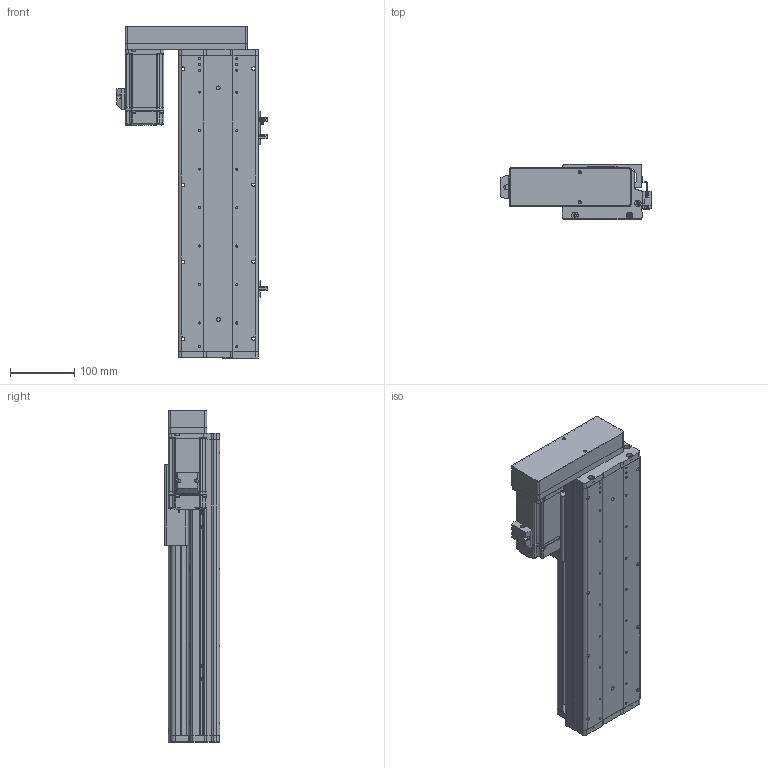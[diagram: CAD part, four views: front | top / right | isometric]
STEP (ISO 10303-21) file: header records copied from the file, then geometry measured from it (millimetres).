
FILE_DESCRIPTION (( 'STEP AP214' ), '1' );
FILE_NAME ('KSD125S-S250-ML-CM.STEP', '2017-10-21T08:28:33', ( '微软用户' ), ( '微软中国' ), 'SwSTEP 2.0', 'SolidWorks 2014', '' );
FILE_SCHEMA (( 'AUTOMOTIVE_DESIGN' ));
Length unit declared in the file: millimetre
Products named in the file (16): KSD125-賑雄釱1; 125-帣傷啣1; KSD125S-S250-ML-CM; 覜茼え68遵圉猾敕; U倰嫖萇EEㄜSX672; HTPA30S3M150_A_H6_a佪裝蚚; HTPA30S3M150_A_H6_a萇儂蚚; 125宽马达安装板连板左右折丝杆; 125悵誘欶酘衵殏; KSD125S-250俴最佪裝滅鳥裔; KSD125S-250俴最佪裝菁啣; MHMD042G1CA_2_03; 拸萇儂釱滅袉菜; 拸萇儂釱滅袉菜-1; U倰嫖萇假蚾璃; ヶ傷啣-125遵耀郪
Assembly tree (19 placements, depth 2):
  KSD125S-S250-ML-CM
    125-帣傷啣1
    KSD125-賑雄釱1
    ヶ傷啣-125遵耀郪
    U倰嫖萇假蚾璃  x3
    拸萇儂釱滅袉菜-1
    拸萇儂釱滅袉菜
    MHMD042G1CA_2_03
    KSD125S-250俴最佪裝菁啣
    KSD125S-250俴最佪裝滅鳥裔
    125悵誘欶酘衵殏
    125宽马达安装板连板左右折丝杆
    HTPA30S3M150_A_H6_a萇儂蚚
    HTPA30S3M150_A_H6_a佪裝蚚
    U倰嫖萇EEㄜSX672  x3
    覜茼え68遵圉猾敕
Bounding box: 234.2 x 86 x 517.5 mm (x, y, z)
Volume: 1976430.2 mm3; surface area: 704863.8 mm2
Topology: 18 solids, 21 shells, 2147 faces, 6219 edges, 4101 vertices
Faces by surface type: cylinder 1330, plane 676, cone 119, bspline 22
Entity records: 75353 total; most frequent: CARTESIAN_POINT 15361, DIRECTION 11773, ORIENTED_EDGE 10946, EDGE_CURVE 5551, AXIS2_PLACEMENT_3D 4539, VERTEX_POINT 3693, VECTOR 2695, LINE 2695
